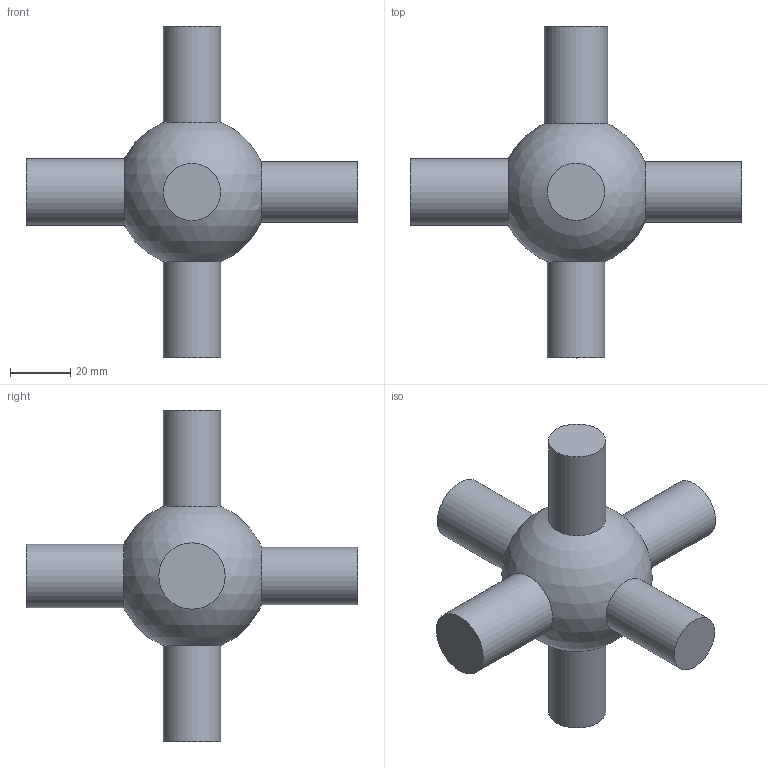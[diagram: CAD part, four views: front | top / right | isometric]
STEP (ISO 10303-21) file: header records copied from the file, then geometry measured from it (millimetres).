
FILE_DESCRIPTION(('Open CASCADE Model'),'2;1');
FILE_NAME('Open CASCADE Shape Model','2022-11-06T00:24:45',('Author'),( 'Open CASCADE'),'Open CASCADE STEP processor 7.6','Open CASCADE 7.6' ,'Unknown');
FILE_SCHEMA(('AUTOMOTIVE_DESIGN { 1 0 10303 214 1 1 1 1 }'));
Length unit declared in the file: millimetre
Products named in the file (1): Modell2
Bounding box: 110 x 110 x 110 mm (x, y, z)
Volume: 124167.2 mm3; surface area: 19875.4 mm2
Topology: 1 solids, 1 shells, 13 faces, 22 edges, 14 vertices
Faces by surface type: cylinder 6, plane 6, sphere 1
Full cylindrical faces by diameter (mm): 19 x3, 20 x1, 21 x1, 22 x1
Entity records: 936 total; most frequent: CARTESIAN_POINT 379, DIRECTION 105, ORIENTED_EDGE 44, PCURVE 44, DEFINITIONAL_REPRESENTATION 44, LINE 39, VECTOR 39, AXIS2_PLACEMENT_3D 30
